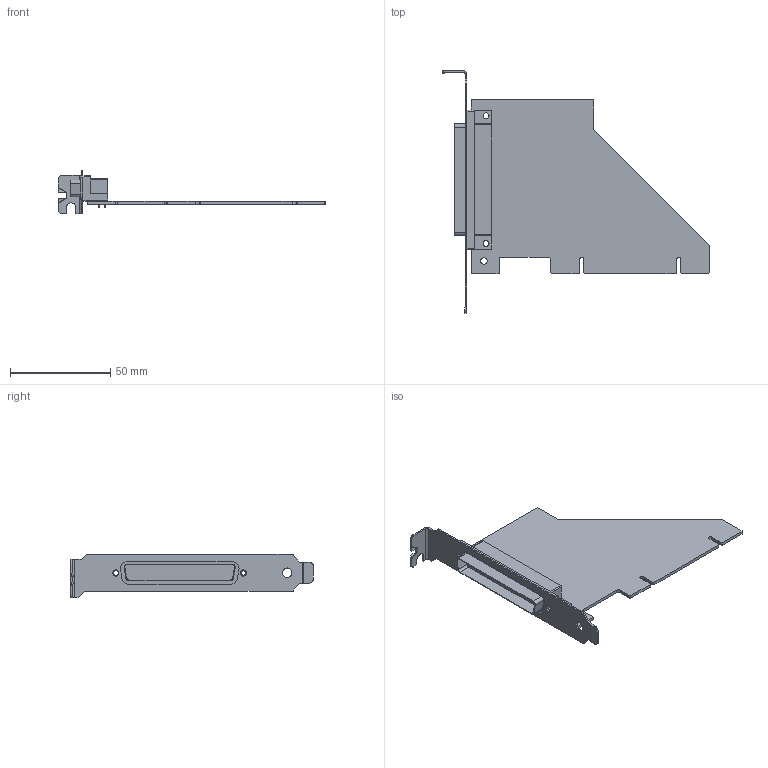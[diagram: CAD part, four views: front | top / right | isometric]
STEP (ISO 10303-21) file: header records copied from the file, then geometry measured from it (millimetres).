
FILE_DESCRIPTION((''),'2;1');
FILE_NAME('CU_NI_PCI-6010','2011-08-11T',('dkendric'),(''),'PRO/ENGINEER BY PARAMETRIC TECHNOLOGY CORPORATION, 2010230','PRO/ENGINEER BY PARAMETRIC TECHNOLOGY CORPORATION, 2010230','');
FILE_SCHEMA(('CONFIG_CONTROL_DESIGN'));
Length unit declared in the file: inch
Products named in the file (1): CU_NI_PCI-6010
Bounding box: 133.18 x 120.78 x 21.59 mm (x, y, z)
Volume: 22397 mm3; surface area: 23279.3 mm2
Topology: 1 solids, 1 shells, 374 faces, 836 edges, 546 vertices
Faces by surface type: cylinder 203, plane 167, bspline 4
Entity records: 10654 total; most frequent: DIRECTION 1966, CARTESIAN_POINT 1868, ORIENTED_EDGE 1672, EDGE_CURVE 836, AXIS2_PLACEMENT_3D 768, VERTEX_POINT 546, EDGE_LOOP 468, VECTOR 430
